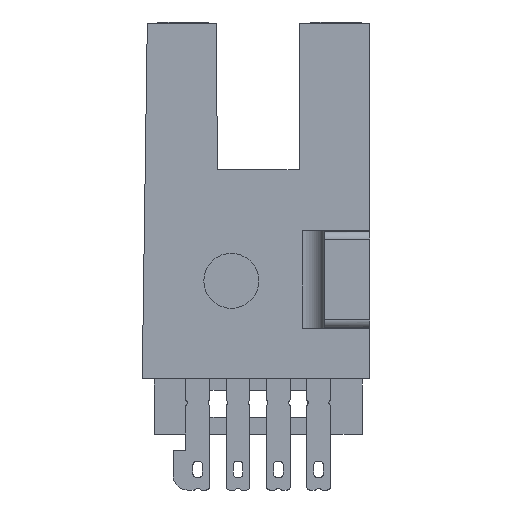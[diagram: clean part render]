
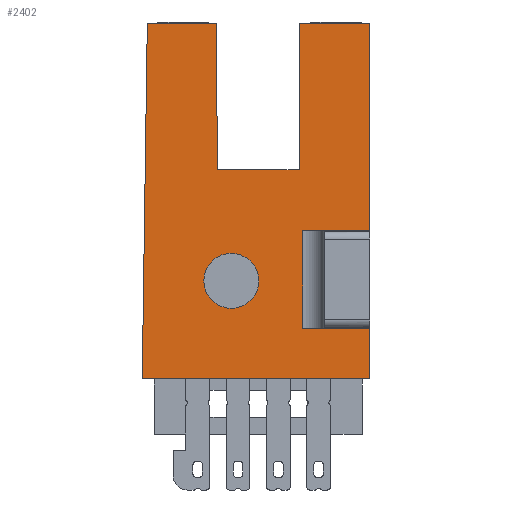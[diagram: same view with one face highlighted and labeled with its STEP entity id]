
A CAD part, left-side view. The second image highlights one B-rep face of the part: STEP entity #2402.
In plain terms, the highlighted planar face has unit normal (-1, 0, 0).
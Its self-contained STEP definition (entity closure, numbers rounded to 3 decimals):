
#109=DIRECTION('',(0.,0.,-1.));
#110=VECTOR('',#109,3.204);
#111=CARTESIAN_POINT('',(-3.216,-29.035,7.236));
#112=LINE('',#111,#110);
#131=DIRECTION('',(0.,0.,-1.));
#132=VECTOR('',#131,13.065);
#133=CARTESIAN_POINT('',(-3.216,-29.035,26.432));
#134=LINE('',#133,#132);
#431=DIRECTION('',(0.,1.,0.));
#432=VECTOR('',#431,4.22);
#433=CARTESIAN_POINT('',(-3.216,-29.035,7.236));
#434=LINE('',#433,#432);
#435=CARTESIAN_POINT('',(-3.216,-20.307,10.216));
#436=DIRECTION('',(1.,0.,0.));
#437=DIRECTION('',(0.,0.,1.));
#438=AXIS2_PLACEMENT_3D('',#435,#436,#437);
#440=CARTESIAN_POINT('',(-3.216,-20.307,10.216));
#441=DIRECTION('',(1.,0.,0.));
#442=DIRECTION('',(0.,0.,-1.));
#443=AXIS2_PLACEMENT_3D('',#440,#441,#442);
#445=DIRECTION('',(0.,1.,0.));
#446=VECTOR('',#445,14.343);
#447=CARTESIAN_POINT('',(-3.216,-29.035,4.032));
#448=LINE('',#447,#446);
#449=DIRECTION('',(0.,0.014,-1.));
#450=VECTOR('',#449,22.402);
#451=CARTESIAN_POINT('',(-3.216,-15.011,26.432));
#452=LINE('',#451,#450);
#453=DIRECTION('',(0.,0.003,1.));
#454=VECTOR('',#453,9.206);
#455=CARTESIAN_POINT('',(-3.216,-19.417,17.226));
#456=LINE('',#455,#454);
#457=DIRECTION('',(0.,1.,0.));
#458=VECTOR('',#457,5.166);
#459=CARTESIAN_POINT('',(-3.216,-24.583,17.226));
#460=LINE('',#459,#458);
#461=DIRECTION('',(0.,0.003,-1.));
#462=VECTOR('',#461,9.206);
#463=CARTESIAN_POINT('',(-3.216,-24.615,26.432));
#464=LINE('',#463,#462);
#465=DIRECTION('',(0.,1.,0.));
#466=VECTOR('',#465,4.42);
#467=CARTESIAN_POINT('',(-3.216,-29.035,26.432));
#468=LINE('',#467,#466);
#469=DIRECTION('',(0.,0.,1.));
#470=VECTOR('',#469,6.131);
#471=CARTESIAN_POINT('',(-3.216,-24.815,7.236));
#472=LINE('',#471,#470);
#499=DIRECTION('',(0.,-1.,0.));
#500=VECTOR('',#499,4.374);
#501=CARTESIAN_POINT('',(-3.216,-15.011,26.432));
#502=LINE('',#501,#500);
#699=DIRECTION('',(0.,-1.,0.));
#700=VECTOR('',#699,4.22);
#701=CARTESIAN_POINT('',(-3.216,-24.815,13.367));
#702=LINE('',#701,#700);
#1486=CARTESIAN_POINT('',(-3.216,-20.307,
8.482));
#1488=VERTEX_POINT('',#1486);
#1489=CARTESIAN_POINT('',(-3.216,-20.307,
11.949));
#1490=VERTEX_POINT('',#1489);
#1585=CARTESIAN_POINT('',(-3.216,-24.615,
26.432));
#1586=VERTEX_POINT('',#1585);
#1587=CARTESIAN_POINT('',(-3.216,-24.583,
17.226));
#1588=VERTEX_POINT('',#1587);
#1589=CARTESIAN_POINT('',(-3.216,-29.035,
26.432));
#1590=VERTEX_POINT('',#1589);
#1591=CARTESIAN_POINT('',(-3.216,-19.417,
17.226));
#1592=CARTESIAN_POINT('',(-3.216,-19.385,
26.432));
#1593=VERTEX_POINT('',#1591);
#1594=VERTEX_POINT('',#1592);
#1595=CARTESIAN_POINT('',(-3.216,-29.035,
13.367));
#1596=VERTEX_POINT('',#1595);
#1608=CARTESIAN_POINT('',(-3.216,-29.035,
7.236));
#1610=VERTEX_POINT('',#1608);
#1689=CARTESIAN_POINT('',(-3.216,-15.011,
26.432));
#1690=VERTEX_POINT('',#1689);
#1863=CARTESIAN_POINT('',(-3.216,-24.815,
7.236));
#1864=CARTESIAN_POINT('',(-3.216,-24.815,
13.367));
#1865=VERTEX_POINT('',#1863);
#1866=VERTEX_POINT('',#1864);
#1881=CARTESIAN_POINT('',(-3.216,-29.035,
4.032));
#1882=CARTESIAN_POINT('',(-3.216,-14.692,
4.032));
#1883=VERTEX_POINT('',#1881);
#1884=VERTEX_POINT('',#1882);
#2370=CARTESIAN_POINT('',(-3.216,-28.774,0.));
#2371=DIRECTION('',(-1.,0.,0.));
#2372=DIRECTION('',(0.,0.,1.));
#2373=AXIS2_PLACEMENT_3D('',#2370,#2371,#2372);
#2374=PLANE('',#2373);
#2375=ORIENTED_EDGE('',*,*,#1948,.T.);
#2377=ORIENTED_EDGE('',*,*,#2376,.F.);
#2379=ORIENTED_EDGE('',*,*,#2378,.T.);
#2381=ORIENTED_EDGE('',*,*,#2380,.F.);
#2383=ORIENTED_EDGE('',*,*,#2382,.F.);
#2385=ORIENTED_EDGE('',*,*,#2384,.F.);
#2387=ORIENTED_EDGE('',*,*,#2386,.F.);
#2388=ORIENTED_EDGE('',*,*,#2021,.T.);
#2390=ORIENTED_EDGE('',*,*,#2389,.F.);
#2391=ORIENTED_EDGE('',*,*,#2348,.F.);
#2392=ORIENTED_EDGE('',*,*,#2360,.F.);
#2393=ORIENTED_EDGE('',*,*,#2009,.T.);
#2394=EDGE_LOOP('',(#2375,#2377,#2379,#2381,#2383,#2385,#2387,#2388,#2390,#2391,
#2392,#2393));
#2395=FACE_OUTER_BOUND('',#2394,.F.);
#2397=ORIENTED_EDGE('',*,*,#2396,.F.);
#2399=ORIENTED_EDGE('',*,*,#2398,.F.);
#2400=EDGE_LOOP('',(#2397,#2399));
#2401=FACE_BOUND('',#2400,.F.);
#2402=ADVANCED_FACE('',(#2395,#2401),#2374,.T.);
#439=CIRCLE('',#438,1.734);
#444=CIRCLE('',#443,1.734);
#1948=EDGE_CURVE('',#1883,#1884,#448,.T.);
#2009=EDGE_CURVE('',#1610,#1883,#112,.T.);
#2021=EDGE_CURVE('',#1590,#1596,#134,.T.);
#2348=EDGE_CURVE('',#1865,#1866,#472,.T.);
#2360=EDGE_CURVE('',#1610,#1865,#434,.T.);
#2376=EDGE_CURVE('',#1690,#1884,#452,.T.);
#2378=EDGE_CURVE('',#1690,#1594,#502,.T.);
#2380=EDGE_CURVE('',#1593,#1594,#456,.T.);
#2382=EDGE_CURVE('',#1588,#1593,#460,.T.);
#2384=EDGE_CURVE('',#1586,#1588,#464,.T.);
#2386=EDGE_CURVE('',#1590,#1586,#468,.T.);
#2389=EDGE_CURVE('',#1866,#1596,#702,.T.);
#2396=EDGE_CURVE('',#1490,#1488,#439,.T.);
#2398=EDGE_CURVE('',#1488,#1490,#444,.T.);
